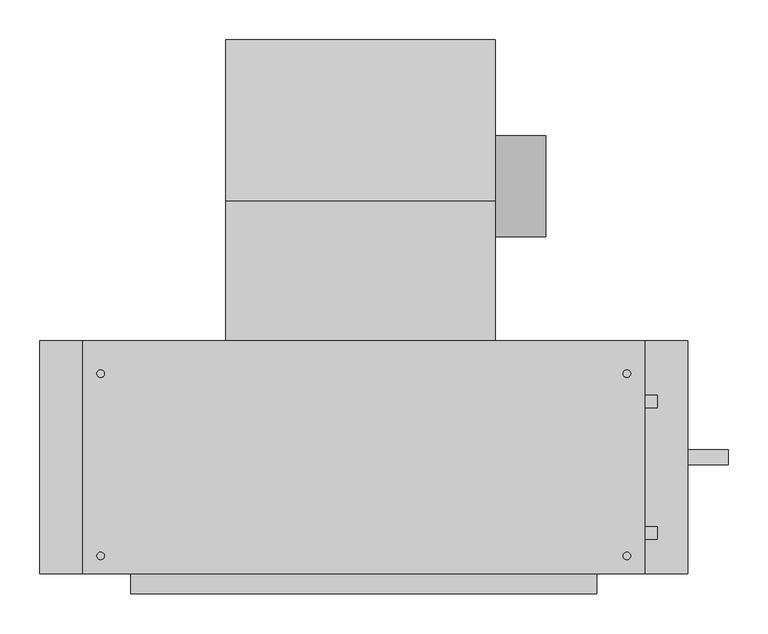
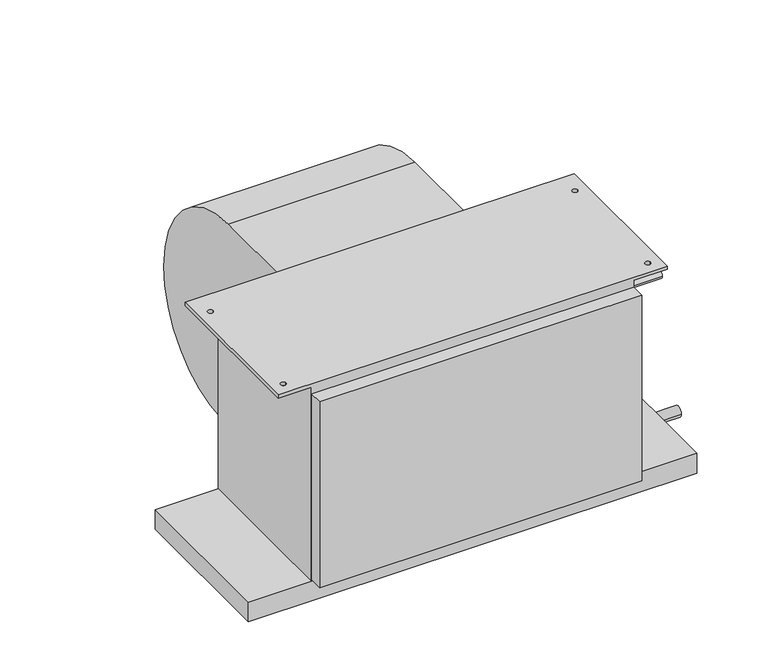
"""IFC4 building model written with IfcOpenShell, lengths in millimetres: proxy geometry, Concealed_High_Capacity_Horizontal_Fan_Coil_Unit_-_42DAA_-_CARRIER_-_2-Pipe_RH_2022 : Size 10 - 277v/60Hz/1Ph - 6 Row 7.0kW."""

from ifc_helpers import new_model, si_unit, point, frame, frame_2d, origin, place, context, project, spatial, polyline, circle_curve, trimmed, segment, composite_curve, outline, extrude, source, transform, mapped, element, save
from ifc_brep_helpers import plane_surface, cylinder_surface, revolved_surface, advanced_brep


def mechanical_equipment_22c93f21(model_context):
    return source(origin(), model_context, "Body", "SolidModel", [
        extrude(outline(composite_curve([segment(trimmed(circle_curve(frame_2d((102.0007598, -206.8897468)), 63.5), [point((165.5007598, -206.8897468))], [point((38.5007598, -206.8897468))], False, "CARTESIAN"), True, "CONTINUOUS"), segment(trimmed(circle_curve(frame_2d((102.0007598, -206.8897468)), 63.5), [point((38.5007598, -206.8897468))], [point((165.5007598, -206.8897468))], False, "CARTESIAN"), True, "CONTINUOUS")], self_intersect=False)), frame((317.5, 0.0, 0.0), z_axis=(1.0, 0.0, 0.0), x_axis=(0.0, 1.0, 0.0)), (0.0, 0.0, 1.0), 63.5),
        advanced_brep(
        [(-20.574, 285.5155957, -222.029602), (-20.574, 104.6226, -403.64664), (-20.574, -50.9016, -277.10638), (-20.574, -92.075, -277.10638), (-20.574, -92.075, -19.05), (-20.574, 83.0080093, -19.05), (317.5, 285.5155957, -222.029602), (317.5, 83.0080093, -19.05), (317.5, -92.075, -19.05), (317.5, -92.075, -277.10638), (317.5, -50.9016, -277.10638), (317.5, 104.622599, -403.6457839)],
        [
            (0, 1, circle_curve(frame((-20.574, 104.44226, -222.57258), z_axis=(-1.0, 0.0, 0.0), x_axis=(0.0, -1.0, 0.0)), 181.0741498)),
            (1, 2, circle_curve(frame((-20.574, 104.44226, -245.02364), z_axis=(-1.0, 0.0, 0.0), x_axis=(0.0, -1.0, 0.0)), 158.6222464)),
            (2, 3),
            (3, 4),
            (4, 5),
            (5, 0, circle_curve(frame((-20.574, 81.9912, -222.57258), z_axis=(-1.0, 0.0, 0.0), x_axis=(0.0, -1.0, 0.0)), 203.52512)),
            (6, 7, circle_curve(frame((317.5, 81.9912, -222.57258), z_axis=(1.0, 0.0, 0.0), x_axis=(0.0, -1.0, 0.0)), 203.52512)),
            (7, 8),
            (8, 9),
            (9, 10),
            (10, 11, circle_curve(frame((317.5, 104.44226, -245.02364), z_axis=(1.0, 0.0, 0.0), x_axis=(0.0, -1.0, 0.0)), 158.6222464)),
            (11, 6, circle_curve(frame((317.5, 104.44226, -222.57258), z_axis=(1.0, 0.0, 0.0), x_axis=(0.0, -1.0, 0.0)), 181.0741498)),
            (0, 6),
            (11, 1),
            (10, 2),
            (9, 3),
            (8, 4),
            (7, 5),
        ],
        [
            plane_surface(frame((-20.574, -76.6318898, -222.57258), z_axis=(-1.0, 0.0, 0.0), x_axis=(0.0, 0.0, 1.0))),
            plane_surface(frame((317.5, -76.6318898, -222.57258), z_axis=(1.0, 0.0, 0.0), x_axis=(0.0, 0.0, -1.0))),
            cylinder_surface(frame((317.5, 104.44226, -222.57258), z_axis=(-1.0, 0.0, 0.0), x_axis=(0.0, -1.0, 0.0)), 181.0741498),
            cylinder_surface(frame((317.5, 104.44226, -245.02364), z_axis=(-1.0, 0.0, 0.0), x_axis=(0.0, -1.0, 0.0)), 158.6222464),
            plane_surface(frame((-20.574, -50.9016, -277.10638), z_axis=(0.0, 0.0, -1.0), x_axis=(1.0, 0.0, 0.0))),
            plane_surface(frame((-20.574, -92.075, -277.10638), z_axis=(0.0, -1.0, 0.0), x_axis=(1.0, 0.0, 0.0))),
            plane_surface(frame((-20.574, -92.075, -19.05), z_axis=(0.0, 0.0, 1.0), x_axis=(1.0, 0.0, 0.0))),
            cylinder_surface(frame((317.5, 81.9912, -222.57258), z_axis=(-1.0, 0.0, 0.0), x_axis=(0.0, -1.0, 0.0)), 203.52512),
        ],
        [
            (0, [[1, 2, 3, 4, 5, 6]]),
            (1, [[7, 8, 9, 10, 11, 12]]),
            (2, [[-1, 13, -12, 14]]),
            (3, [[-2, -14, -11, 15]]),
            (4, [[-3, -15, -10, 16]]),
            (5, [[-4, -16, -9, 17]]),
            (6, [[-5, -17, -8, 18]]),
            (7, [[-6, -18, -7, -13]]),
        ],
    ),
        advanced_brep(
        [(504.825, -92.075, -6.35), (504.825, -384.175, -6.35), (444.5, -384.175, -6.35), (444.5, -92.075, -6.35), (477.8375, -133.35, -6.35), (487.3625, -133.35, -6.35), (477.8375, -361.95, -6.35), (487.3625, -361.95, -6.35), (-200.025, -92.075, -6.35), (-139.7, -92.075, -6.35), (-139.7, -384.175, -6.35), (-200.025, -384.175, -6.35), (-182.5625, -133.35, -6.35), (-173.0375, -133.35, -6.35), (-182.5625, -361.95, -6.35), (-173.0375, -361.95, -6.35), (504.825, -384.175, 0.0), (504.825, -92.075, 0.0), (-200.025, -92.075, 0.0), (-200.025, -384.175, 0.0), (-173.0375, -133.35, 0.0), (-182.5625, -133.35, 0.0), (-173.0375, -361.95, 0.0), (-182.5625, -361.95, 0.0), (487.3625, -133.35, 0.0), (477.8375, -133.35, 0.0), (487.3625, -361.95, 0.0), (477.8375, -361.95, 0.0), (444.5, -92.075, -377.825), (-139.7, -92.075, -377.825), (-139.7, -384.175, -377.825), (444.5, -384.175, -377.825)],
        [
            (0, 1),
            (1, 2),
            (2, 3),
            (3, 0),
            (4, 5, circle_curve(frame((482.6, -133.35, -6.35), z_axis=(0.0, 0.0, 1.0), x_axis=(1.0, 0.0, 0.0)), 4.7625)),
            (5, 4, circle_curve(frame((482.6, -133.35, -6.35), z_axis=(0.0, 0.0, 1.0), x_axis=(1.0, 0.0, 0.0)), 4.7625)),
            (6, 7, circle_curve(frame((482.6, -361.95, -6.35), z_axis=(0.0, 0.0, 1.0), x_axis=(1.0, 0.0, 0.0)), 4.7625)),
            (7, 6, circle_curve(frame((482.6, -361.95, -6.35), z_axis=(0.0, 0.0, 1.0), x_axis=(1.0, 0.0, 0.0)), 4.7625)),
            (8, 9),
            (9, 10),
            (10, 11),
            (11, 8),
            (12, 13, circle_curve(frame((-177.8, -133.35, -6.35), z_axis=(0.0, 0.0, 1.0), x_axis=(1.0, 0.0, 0.0)), 4.7625)),
            (13, 12, circle_curve(frame((-177.8, -133.35, -6.35), z_axis=(0.0, 0.0, 1.0), x_axis=(1.0, 0.0, 0.0)), 4.7625)),
            (14, 15, circle_curve(frame((-177.8, -361.95, -6.35), z_axis=(0.0, 0.0, 1.0), x_axis=(1.0, 0.0, 0.0)), 4.7625)),
            (15, 14, circle_curve(frame((-177.8, -361.95, -6.35), z_axis=(0.0, 0.0, 1.0), x_axis=(1.0, 0.0, 0.0)), 4.7625)),
            (16, 17),
            (17, 18),
            (18, 19),
            (19, 16),
            (20, 21, circle_curve(frame((-177.8, -133.35, 0.0), z_axis=(0.0, 0.0, -1.0), x_axis=(1.0, 0.0, 0.0)), 4.7625)),
            (21, 20, circle_curve(frame((-177.8, -133.35, 0.0), z_axis=(0.0, 0.0, -1.0), x_axis=(1.0, 0.0, 0.0)), 4.7625)),
            (22, 23, circle_curve(frame((-177.8, -361.95, 0.0), z_axis=(0.0, 0.0, -1.0), x_axis=(1.0, 0.0, 0.0)), 4.7625)),
            (23, 22, circle_curve(frame((-177.8, -361.95, 0.0), z_axis=(0.0, 0.0, -1.0), x_axis=(1.0, 0.0, 0.0)), 4.7625)),
            (24, 25, circle_curve(frame((482.6, -133.35, 0.0), z_axis=(0.0, 0.0, -1.0), x_axis=(1.0, 0.0, 0.0)), 4.7625)),
            (25, 24, circle_curve(frame((482.6, -133.35, 0.0), z_axis=(0.0, 0.0, -1.0), x_axis=(1.0, 0.0, 0.0)), 4.7625)),
            (26, 27, circle_curve(frame((482.6, -361.95, 0.0), z_axis=(0.0, 0.0, -1.0), x_axis=(1.0, 0.0, 0.0)), 4.7625)),
            (27, 26, circle_curve(frame((482.6, -361.95, 0.0), z_axis=(0.0, 0.0, -1.0), x_axis=(1.0, 0.0, 0.0)), 4.7625)),
            (3, 28),
            (28, 29),
            (29, 9),
            (8, 18),
            (17, 0),
            (1, 16),
            (19, 11),
            (10, 30),
            (30, 31),
            (31, 2),
            (28, 31),
            (30, 29),
            (20, 13),
            (12, 21),
            (22, 15),
            (14, 23),
            (24, 5),
            (4, 25),
            (26, 7),
            (6, 27),
        ],
        [
            plane_surface(frame((444.5, -92.075, -6.35), z_axis=(0.0, 0.0, -1.0), x_axis=(1.0, 0.0, 0.0))),
            plane_surface(frame((444.5, -92.075, 0.0), z_axis=(0.0, 0.0, 1.0), x_axis=(-1.0, 0.0, 0.0))),
            plane_surface(frame((504.825, -92.075, 0.0), z_axis=(0.0, 1.0, 0.0), x_axis=(0.0, 0.0, -1.0))),
            plane_surface(frame((444.5, -384.175, 0.0), z_axis=(0.0, -1.0, 0.0), x_axis=(0.0, 0.0, -1.0))),
            plane_surface(frame((504.825, -384.175, 0.0), z_axis=(1.0, 0.0, 0.0), x_axis=(0.0, 0.0, -1.0))),
            plane_surface(frame((-200.025, -92.075, 0.0), z_axis=(-1.0, 0.0, 0.0), x_axis=(0.0, 0.0, -1.0))),
            plane_surface(frame((-139.7, -92.075, -377.825), z_axis=(0.0, 0.0, -1.0), x_axis=(1.0, 0.0, 0.0))),
            plane_surface(frame((-139.7, -92.075, 0.0), z_axis=(-1.0, 0.0, 0.0), x_axis=(0.0, 0.0, -1.0))),
            plane_surface(frame((444.5, -384.175, 0.0), z_axis=(1.0, 0.0, 0.0), x_axis=(0.0, 0.0, -1.0))),
            revolved_surface(polyline([(-173.03750000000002, -133.35, 0.0), (-173.03750000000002, -133.35, -6.35)]), (-177.8, -133.35, -6.35), (0.0, 0.0, 1.0)),
            revolved_surface(polyline([(-173.03750000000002, -361.95, 0.0), (-173.03750000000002, -361.95, -6.35)]), (-177.8, -361.95, 0.0), (0.0, 0.0, 1.0)),
            revolved_surface(polyline([(487.3625, -133.35, 0.0), (487.3625, -133.35, -6.35)]), (482.6, -133.35, 0.0), (0.0, 0.0, 1.0)),
            revolved_surface(polyline([(487.3625, -361.95, 0.0), (487.3625, -361.95, -6.35)]), (482.6, -361.95, 0.0), (0.0, 0.0, 1.0)),
        ],
        [
            (0, [[1, 2, 3, 4], [5, 6], [7, 8]]),
            (0, [[9, 10, 11, 12], [13, 14], [15, 16]]),
            (1, [[17, 18, 19, 20], [21, 22], [23, 24], [25, 26], [27, 28]]),
            (2, [[-4, 29, 30, 31, -9, 32, -18, 33]]),
            (3, [[-2, 34, -20, 35, -11, 36, 37, 38]]),
            (4, [[-1, -33, -17, -34]]),
            (5, [[-12, -35, -19, -32]]),
            (6, [[39, -37, 40, -30]]),
            (7, [[-40, -36, -10, -31]]),
            (8, [[-39, -29, -3, -38]]),
            (9, [[41, -13, 42, -21]]),
            (9, [[-41, -22, -42, -14]]),
            (10, [[43, -15, 44, -23]]),
            (10, [[-43, -24, -44, -16]]),
            (11, [[45, -5, 46, -25]]),
            (11, [[-45, -26, -46, -6]]),
            (12, [[47, -7, 48, -27]]),
            (12, [[-47, -28, -48, -8]]),
        ],
    ),
        extrude(outline(composite_curve([segment(trimmed(circle_curve(frame_2d((-238.125, -403.225)), 9.525), [point((-228.6, -403.225))], [point((-247.65, -403.225))], False, "CARTESIAN"), True, "CONTINUOUS"), segment(trimmed(circle_curve(frame_2d((-238.125, -403.225)), 9.525), [point((-247.65, -403.225))], [point((-228.6, -403.225))], False, "CARTESIAN"), True, "CONTINUOUS")], self_intersect=False)), frame((558.8, 0.0, 0.0), z_axis=(1.0, 0.0, 0.0), x_axis=(0.0, 1.0, 0.0)), (0.0, 0.0, 1.0), 50.8),
        extrude(outline(composite_curve([segment(trimmed(circle_curve(frame_2d((-333.375, -50.8)), 7.9375), [point((-325.4375, -50.8))], [point((-341.3125, -50.8))], False, "CARTESIAN"), True, "CONTINUOUS"), segment(trimmed(circle_curve(frame_2d((-333.375, -50.8)), 7.9375), [point((-341.3125, -50.8))], [point((-325.4375, -50.8))], False, "CARTESIAN"), True, "CONTINUOUS")], self_intersect=False)), frame((444.5, 0.0, 0.0), z_axis=(1.0, 0.0, 0.0), x_axis=(0.0, 1.0, 0.0)), (0.0, 0.0, 1.0), 76.2),
        extrude(outline(composite_curve([segment(trimmed(circle_curve(frame_2d((-168.275, -327.025)), 7.9375), [point((-160.3375, -327.025))], [point((-176.2125, -327.025))], False, "CARTESIAN"), True, "CONTINUOUS"), segment(trimmed(circle_curve(frame_2d((-168.275, -327.025)), 7.9375), [point((-176.2125, -327.025))], [point((-160.3375, -327.025))], False, "CARTESIAN"), True, "CONTINUOUS")], self_intersect=False)), frame((444.5, 0.0, 0.0), z_axis=(1.0, 0.0, 0.0), x_axis=(0.0, 1.0, 0.0)), (0.0, 0.0, 1.0), 76.2),
        extrude(outline(polyline([(444.5, -409.575), (-139.7, -409.575), (-139.7, -384.175), (444.5, -384.175), (444.5, -409.575)])), frame((0.0, 0.0, -374.65), z_axis=(0.0, 0.0, 1.0), x_axis=(1.0, 0.0, 0.0)), (0.0, 0.0, 1.0), 355.6),
        extrude(outline(polyline([(558.8, -92.075), (558.8, -384.175), (-254.0, -384.175), (-254.0, -92.075), (558.8, -92.075)])), frame((0.0, 0.0, -415.925), z_axis=(0.0, 0.0, 1.0), x_axis=(1.0, 0.0, 0.0)), (0.0, 0.0, 1.0), 38.1),
    ])


if __name__ == "__main__":
    model = new_model("IFC4")
    model_context = context("Model", 3, world=origin())
    ifc_project = project(units=[si_unit("LENGTHUNIT", "METRE", prefix="MILLI")], contexts=[model_context])
    site = spatial("IfcSite", under=ifc_project)
    building = spatial("IfcBuilding", under=site)
    placement = place(None, origin())
    mechanical_equipment_shape = mechanical_equipment_22c93f21(model_context)
    element("IfcBuildingElementProxy", 1, Name="Concealed_High_Capacity_Horizontal_Fan_Coil_Unit_-_42DAA_-_CARRIER_-_2-Pipe_RH_2022 : Size 10 - 277v/60Hz/1Ph - 6 Row 7.0kW", ObjectType="Concealed_High_Capacity_Horizontal_Fan_Coil_Unit_-_42DAA_-_CARRIER_-_2-Pipe_RH_2022 : Size 10 - 277v/60Hz/1Ph - 6 Row 7.0kW", at=placement, inside=building, context=model_context, shape_type="MappedRepresentation", body=[
        mapped(mechanical_equipment_shape, transform((0.0, 0.0, 0.0), x_axis=(1.0, 0.0, 0.0), y_axis=(0.0, 1.0, 0.0), z_axis=(0.0, 0.0, 1.0))),
    ])
    save(model, "model.ifc")
